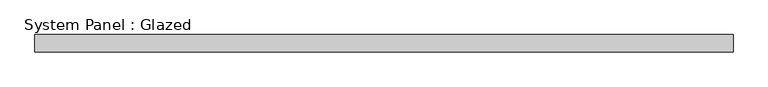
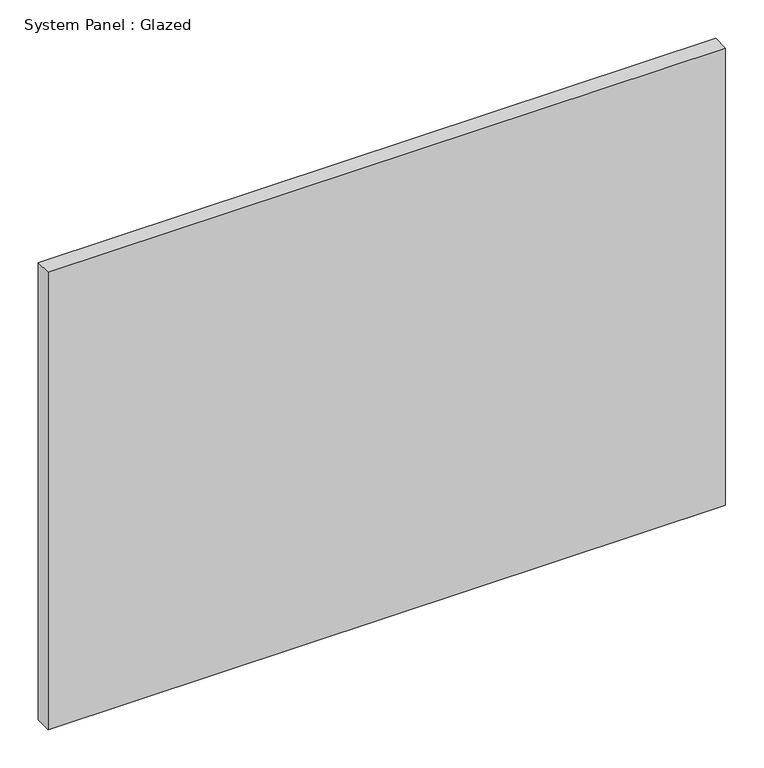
"""IFC4 building model written with IfcOpenShell, lengths in millimetres: plate geometry, System Panel : Glazed."""

from ifc_helpers import new_model, si_unit, origin, origin_with_axes, place, context, project, spatial, polyline, outline, extrude, source, transform, mapped, element, save


def system_panel_glazed_4c0efa74(model_context):
    return source(origin(), model_context, "Body", "SweptSolid", [
        extrude(outline(polyline([(508.3333333, 24.5), (-508.3333333, 24.5), (-508.3333333, 49.5), (508.3333333, 49.5), (508.3333333, 24.5)])), origin_with_axes(), (0.0, 0.0, 1.0), 725.0),
    ])


if __name__ == "__main__":
    model = new_model("IFC4")
    model_context = context("Model", 3, world=origin())
    ifc_project = project(units=[si_unit("LENGTHUNIT", "METRE", prefix="MILLI")], contexts=[model_context])
    site = spatial("IfcSite", under=ifc_project)
    building = spatial("IfcBuilding", under=site)
    placement = place(None, origin())
    system_panel_glazed_shape = system_panel_glazed_4c0efa74(model_context)
    element("IfcPlate", 1, ObjectType="System Panel : Glazed", at=placement, inside=building, context=model_context, shape_type="MappedRepresentation", body=[
        mapped(system_panel_glazed_shape, transform((0.0, 0.0, 0.0), x_axis=(1.0, 0.0, 0.0), y_axis=(0.0, 1.0, 0.0), z_axis=(0.0, 0.0, 1.0))),
    ])
    save(model, "model.ifc")
